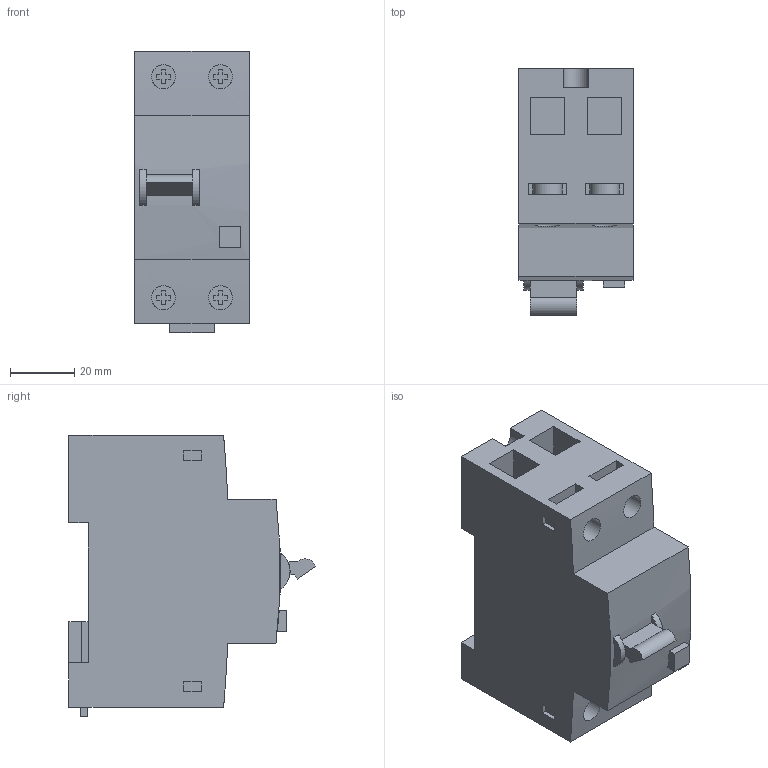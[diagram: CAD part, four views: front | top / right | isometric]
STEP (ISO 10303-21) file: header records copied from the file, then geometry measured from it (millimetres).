
FILE_DESCRIPTION(/* description */ ('STEP AP242','CAx-IF Rec.Pracs.---Representation and Presentation of Product Manufacturing Information (PMI)---4.0---2014-10-13','CAx-IF Rec.Pracs.---3D Tessellated Geometry---0.4---2014-09-14','2;1'),/* implementation_level */ '2;1');
FILE_NAME(/* name */ '09112601HD - 300',/* time_stamp */ '2026-10-04T22:08:55+02:00',/* author */ ('License CC BY-ND 4.0'),/* organization */ ('CADENAS'),/* preprocessor_version */ 'ST-DEVELOPER v20',/* originating_system */ 'PARTsolutions',/* authorisation */ ' ');
FILE_SCHEMA (('AP242_MANAGED_MODEL_BASED_3D_ENGINEERING_MIM_LF { 1 0 10303 442 1 1 4 }'));
Length unit declared in the file: millimetre
Products named in the file (1): 09112601HD - 300
Bounding box: 35.6 x 76.87 x 88 mm (x, y, z)
Volume: 158267.5 mm3; surface area: 25542 mm2
Topology: 1 solids, 1 shells, 183 faces, 474 edges, 316 vertices
Faces by surface type: plane 167, cylinder 16
Full cylindrical faces by diameter (mm): 7.526 x4
Entity records: 6782 total; most frequent: CARTESIAN_POINT 1002, ORIENTED_EDGE 932, DIRECTION 870, EDGE_CURVE 466, LINE 422, VECTOR 422, VERTEX_POINT 312, AXIS2_PLACEMENT_3D 224
